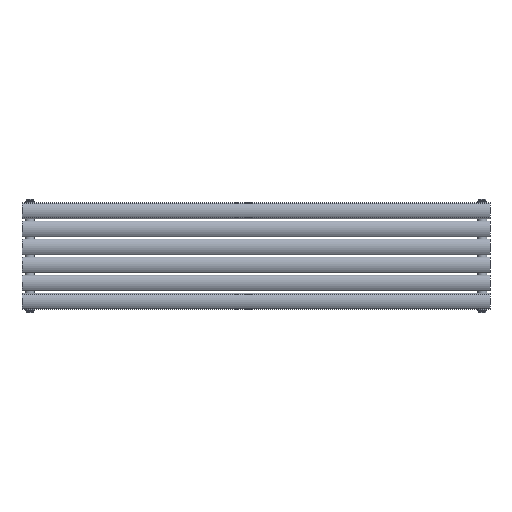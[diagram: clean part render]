
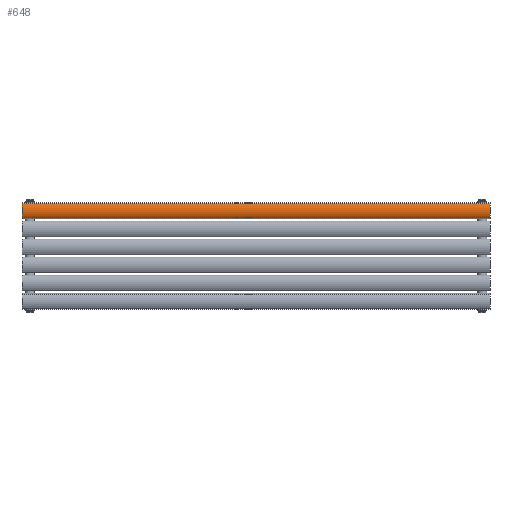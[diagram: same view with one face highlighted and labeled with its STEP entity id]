
A CAD part, top view. The second image highlights one B-rep face of the part: STEP entity #648.
In plain terms, the highlighted cylindrical face has radius 39.5 mm (diameter 79 mm), a partial arc.
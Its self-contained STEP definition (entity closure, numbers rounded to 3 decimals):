
#75=LINE('',#1472,#103);
#76=LINE('',#1475,#104);
#103=VECTOR('',#844,10.);
#104=VECTOR('',#847,10.);
#172=CIRCLE('',#732,39.5);
#175=CIRCLE('',#736,39.5);
#234=FACE_OUTER_BOUND('',#291,.T.);
#291=EDGE_LOOP('',(#520,#521,#522,#523));
#361=VERTEX_POINT('',#1463);
#362=VERTEX_POINT('',#1465);
#364=VERTEX_POINT('',#1471);
#365=VERTEX_POINT('',#1473);
#420=EDGE_CURVE('',#361,#362,#172,.T.);
#423=EDGE_CURVE('',#364,#361,#75,.T.);
#424=EDGE_CURVE('',#365,#364,#175,.T.);
#425=EDGE_CURVE('',#362,#365,#76,.T.);
#520=ORIENTED_EDGE('',*,*,#423,.F.);
#521=ORIENTED_EDGE('',*,*,#424,.F.);
#522=ORIENTED_EDGE('',*,*,#425,.F.);
#523=ORIENTED_EDGE('',*,*,#420,.F.);
#630=CYLINDRICAL_SURFACE('',#735,39.5);
#648=ADVANCED_FACE('',(#234),#630,.T.);
#732=AXIS2_PLACEMENT_3D('',#1466,#836,#837);
#735=AXIS2_PLACEMENT_3D('',#1470,#842,#843);
#736=AXIS2_PLACEMENT_3D('',#1474,#845,#846);
#836=DIRECTION('center_axis',(0.,0.,-1.));
#837=DIRECTION('ref_axis',(-0.552,-0.834,0.));
#842=DIRECTION('center_axis',(0.,0.,1.));
#843=DIRECTION('ref_axis',(-0.552,-0.834,0.));
#844=DIRECTION('',(0.,0.,-1.));
#845=DIRECTION('center_axis',(0.,0.,1.));
#846=DIRECTION('ref_axis',(-0.552,-0.834,0.));
#847=DIRECTION('',(0.,0.,1.));
#1463=CARTESIAN_POINT('',(21.816,-18.429,-750.));
#1465=CARTESIAN_POINT('',(-21.816,-18.429,-750.));
#1466=CARTESIAN_POINT('Origin',(0.,14.5,-750.));
#1470=CARTESIAN_POINT('Origin',(0.,14.5,0.));
#1471=CARTESIAN_POINT('',(21.816,-18.429,750.));
#1472=CARTESIAN_POINT('',(21.816,-18.429,0.));
#1473=CARTESIAN_POINT('',(-21.816,-18.429,750.));
#1474=CARTESIAN_POINT('Origin',(0.,14.5,750.));
#1475=CARTESIAN_POINT('',(-21.816,-18.429,0.));
